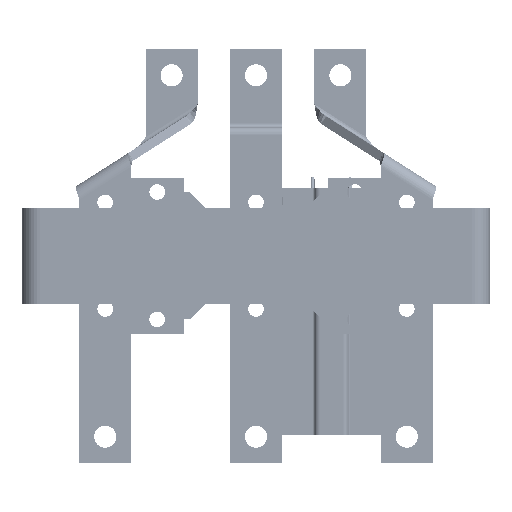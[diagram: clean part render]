
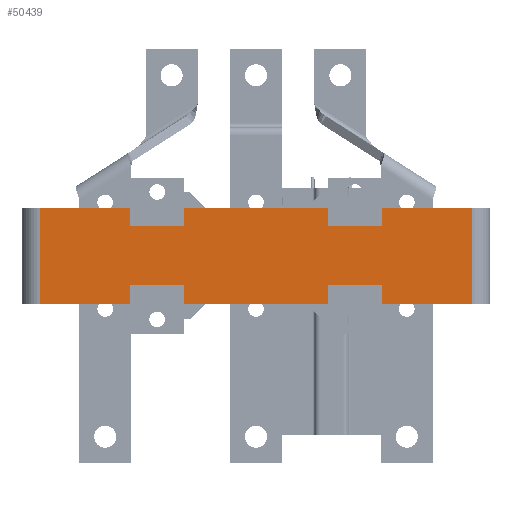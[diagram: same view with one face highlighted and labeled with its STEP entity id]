
A CAD part, left-side view. The second image highlights one B-rep face of the part: STEP entity #50439.
In plain terms, the highlighted planar face has unit normal (-1, 0, 0).
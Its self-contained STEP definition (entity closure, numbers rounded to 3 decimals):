
#9212=PLANE('',#167611);
#19464=LINE('',#262416,#36434);
#19468=LINE('',#262424,#36438);
#19480=LINE('',#262448,#36450);
#19492=LINE('',#262477,#36462);
#19494=LINE('',#262481,#36464);
#19507=LINE('',#262507,#36477);
#19787=LINE('',#263073,#36757);
#19794=LINE('',#263087,#36764);
#19810=LINE('',#263119,#36780);
#19833=LINE('',#263170,#36803);
#19835=LINE('',#263174,#36805);
#19837=LINE('',#263178,#36807);
#19852=LINE('',#263218,#36822);
#19940=LINE('',#263415,#36910);
#19941=LINE('',#263416,#36911);
#19942=LINE('',#263417,#36912);
#19944=LINE('',#263420,#36914);
#19945=LINE('',#263424,#36915);
#19946=LINE('',#263425,#36916);
#19947=LINE('',#263426,#36917);
#36434=VECTOR('',#193484,1.);
#36438=VECTOR('',#193490,1.);
#36450=VECTOR('',#193514,1.);
#36462=VECTOR('',#193538,1.);
#36464=VECTOR('',#193542,1.);
#36477=VECTOR('',#193567,1.);
#36757=VECTOR('',#194045,1.);
#36764=VECTOR('',#194056,1.);
#36780=VECTOR('',#194086,1.);
#36803=VECTOR('',#194131,1.);
#36805=VECTOR('',#194135,1.);
#36807=VECTOR('',#194139,1.);
#36822=VECTOR('',#194174,1.);
#36910=VECTOR('',#194350,1.);
#36911=VECTOR('',#194351,1.);
#36912=VECTOR('',#194352,1.);
#36914=VECTOR('',#194356,1.);
#36915=VECTOR('',#194361,1.);
#36916=VECTOR('',#194362,1.);
#36917=VECTOR('',#194363,1.);
#50439=ADVANCED_FACE('F180',(#59155),#9212,.T.);
#59155=FACE_OUTER_BOUND('',#67907,.T.);
#67907=EDGE_LOOP('',(#94698,#94699,#94700,#94701,#94702,#94703,#94704,#94705,
#94706,#94707,#94708,#94709,#94710,#94711,#94712,#94713,#94714,#94715,#94716,
#94717));
#94698=ORIENTED_EDGE('',*,*,#145469,.T.);
#94699=ORIENTED_EDGE('',*,*,#145471,.T.);
#94700=ORIENTED_EDGE('',*,*,#145013,.T.);
#94701=ORIENTED_EDGE('',*,*,#144998,.T.);
#94702=ORIENTED_EDGE('',*,*,#145000,.T.);
#94703=ORIENTED_EDGE('',*,*,#145472,.T.);
#94704=ORIENTED_EDGE('',*,*,#144984,.T.);
#94705=ORIENTED_EDGE('',*,*,#144968,.T.);
#94706=ORIENTED_EDGE('',*,*,#144972,.T.);
#94707=ORIENTED_EDGE('',*,*,#145473,.T.);
#94708=ORIENTED_EDGE('',*,*,#145366,.T.);
#94709=ORIENTED_EDGE('',*,*,#145467,.T.);
#94710=ORIENTED_EDGE('',*,*,#145302,.T.);
#94711=ORIENTED_EDGE('',*,*,#145295,.T.);
#94712=ORIENTED_EDGE('',*,*,#145318,.T.);
#94713=ORIENTED_EDGE('',*,*,#145466,.T.);
#94714=ORIENTED_EDGE('',*,*,#145343,.T.);
#94715=ORIENTED_EDGE('',*,*,#145345,.T.);
#94716=ORIENTED_EDGE('',*,*,#145347,.T.);
#94717=ORIENTED_EDGE('',*,*,#145465,.T.);
#126111=VERTEX_POINT('',#262415);
#126112=VERTEX_POINT('',#262417);
#126114=VERTEX_POINT('',#262423);
#126120=VERTEX_POINT('',#262447);
#126131=VERTEX_POINT('',#262476);
#126132=VERTEX_POINT('',#262478);
#126133=VERTEX_POINT('',#262482);
#126140=VERTEX_POINT('',#262508);
#126323=VERTEX_POINT('',#263067);
#126326=VERTEX_POINT('',#263072);
#126330=VERTEX_POINT('',#263083);
#126340=VERTEX_POINT('',#263118);
#126357=VERTEX_POINT('',#263169);
#126358=VERTEX_POINT('',#263171);
#126359=VERTEX_POINT('',#263175);
#126360=VERTEX_POINT('',#263179);
#126372=VERTEX_POINT('',#263213);
#126374=VERTEX_POINT('',#263217);
#126439=VERTEX_POINT('',#263414);
#126440=VERTEX_POINT('',#263421);
#144968=EDGE_CURVE('E114',#126112,#126111,#19464,.T.);
#144972=EDGE_CURVE('E108',#126111,#126114,#19468,.T.);
#144984=EDGE_CURVE('E112',#126120,#126112,#19480,.T.);
#144998=EDGE_CURVE('E368',#126132,#126131,#19492,.T.);
#145000=EDGE_CURVE('E366',#126131,#126133,#19494,.T.);
#145013=EDGE_CURVE('E362',#126140,#126132,#19507,.T.);
#145295=EDGE_CURVE('E113',#126323,#126326,#19787,.T.);
#145302=EDGE_CURVE('E103',#126330,#126323,#19794,.T.);
#145318=EDGE_CURVE('E105',#126326,#126340,#19810,.T.);
#145343=EDGE_CURVE('E359',#126358,#126357,#19833,.T.);
#145345=EDGE_CURVE('E367',#126357,#126359,#19835,.T.);
#145347=EDGE_CURVE('E357',#126359,#126360,#19837,.T.);
#145366=EDGE_CURVE('E134',#126372,#126374,#19852,.T.);
#145465=EDGE_CURVE('E509',#126360,#126439,#19940,.T.);
#145466=EDGE_CURVE('E510',#126340,#126358,#19941,.T.);
#145467=EDGE_CURVE('E512',#126374,#126330,#19942,.T.);
#145469=EDGE_CURVE('E388',#126439,#126440,#19944,.T.);
#145471=EDGE_CURVE('E520',#126440,#126140,#19945,.T.);
#145472=EDGE_CURVE('E524',#126133,#126120,#19946,.T.);
#145473=EDGE_CURVE('E523',#126114,#126372,#19947,.T.);
#167611=AXIS2_PLACEMENT_3D('',#263427,#194364,#194365);
#193484=DIRECTION('',(0.,-1.,0.));
#193490=DIRECTION('',(0.,0.,-1.));
#193514=DIRECTION('',(0.,0.,1.));
#193538=DIRECTION('',(0.,-1.,0.));
#193542=DIRECTION('',(0.,0.,-1.));
#193567=DIRECTION('',(0.,0.,1.));
#194045=DIRECTION('',(0.,1.,0.));
#194056=DIRECTION('',(0.,0.,-1.));
#194086=DIRECTION('',(0.,0.,1.));
#194131=DIRECTION('',(0.,0.,-1.));
#194135=DIRECTION('',(0.,1.,0.));
#194139=DIRECTION('',(0.,0.,1.));
#194174=DIRECTION('',(0.,0.,1.));
#194350=DIRECTION('',(0.,1.,0.));
#194351=DIRECTION('',(0.,1.,0.));
#194352=DIRECTION('',(0.,1.,0.));
#194356=DIRECTION('',(0.,0.,-1.));
#194361=DIRECTION('',(0.,-1.,0.));
#194362=DIRECTION('',(0.,-1.,0.));
#194363=DIRECTION('',(0.,-1.,0.));
#194364=DIRECTION('',(-1.,0.,0.));
#194365=DIRECTION('',(0.,-1.,0.));
#262415=CARTESIAN_POINT('',(9.122,-147.068,158.84));
#262416=CARTESIAN_POINT('',(9.122,-136.568,158.84));
#262417=CARTESIAN_POINT('',(9.122,-126.068,158.84));
#262423=CARTESIAN_POINT('',(9.122,-147.068,151.713));
#262424=CARTESIAN_POINT('',(9.122,-147.068,155.277));
#262447=CARTESIAN_POINT('',(9.122,-126.068,151.713));
#262448=CARTESIAN_POINT('',(9.122,-126.068,155.277));
#262476=CARTESIAN_POINT('',(9.122,-71.068,158.84));
#262477=CARTESIAN_POINT('',(9.122,-60.568,158.84));
#262478=CARTESIAN_POINT('',(9.122,-50.068,158.84));
#262481=CARTESIAN_POINT('',(9.122,-71.068,155.277));
#262482=CARTESIAN_POINT('',(9.122,-71.068,151.713));
#262507=CARTESIAN_POINT('',(9.122,-50.068,155.277));
#262508=CARTESIAN_POINT('',(9.122,-50.068,151.713));
#263067=CARTESIAN_POINT('',(9.122,-147.068,181.587));
#263072=CARTESIAN_POINT('',(9.122,-126.068,181.587));
#263073=CARTESIAN_POINT('',(9.122,-136.568,181.587));
#263083=CARTESIAN_POINT('',(9.122,-147.068,188.713));
#263087=CARTESIAN_POINT('',(9.122,-147.068,185.15));
#263118=CARTESIAN_POINT('',(9.122,-126.068,188.713));
#263119=CARTESIAN_POINT('',(9.122,-126.068,185.15));
#263169=CARTESIAN_POINT('',(9.122,-71.068,181.587));
#263170=CARTESIAN_POINT('',(9.122,-71.068,185.15));
#263171=CARTESIAN_POINT('',(9.122,-71.068,188.713));
#263174=CARTESIAN_POINT('',(9.122,-60.568,181.587));
#263175=CARTESIAN_POINT('',(9.122,-50.068,181.587));
#263178=CARTESIAN_POINT('',(9.122,-50.068,185.15));
#263179=CARTESIAN_POINT('',(9.122,-50.068,188.713));
#263213=CARTESIAN_POINT('',(9.122,-181.568,151.713));
#263217=CARTESIAN_POINT('',(9.122,-181.568,188.713));
#263218=CARTESIAN_POINT('',(9.122,-181.568,170.213));
#263414=CARTESIAN_POINT('',(9.122,-15.568,188.713));
#263415=CARTESIAN_POINT('',(9.122,-32.818,188.713));
#263416=CARTESIAN_POINT('',(9.122,-98.568,188.713));
#263417=CARTESIAN_POINT('',(9.122,-164.318,188.713));
#263420=CARTESIAN_POINT('',(9.122,-15.568,170.213));
#263421=CARTESIAN_POINT('',(9.122,-15.568,151.713));
#263424=CARTESIAN_POINT('',(9.122,-32.818,151.713));
#263425=CARTESIAN_POINT('',(9.122,-98.568,151.713));
#263426=CARTESIAN_POINT('',(9.122,-164.318,151.713));
#263427=CARTESIAN_POINT('',(9.122,-8.468,151.613));
